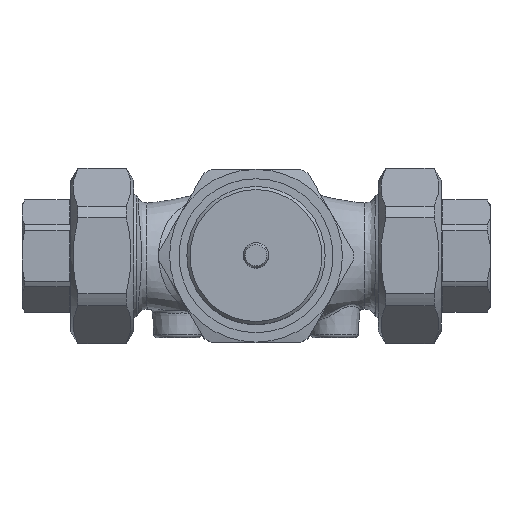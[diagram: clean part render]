
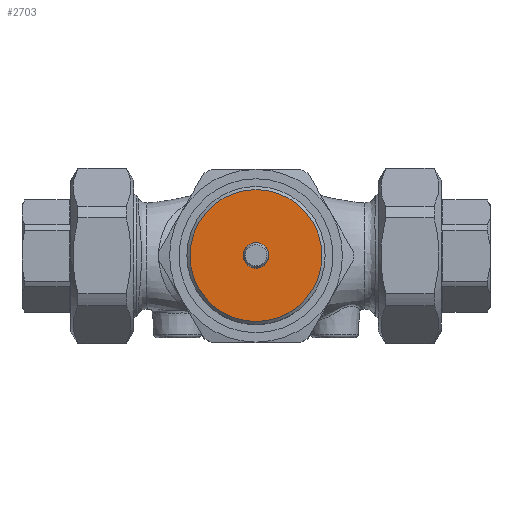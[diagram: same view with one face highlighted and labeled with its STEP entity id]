
A CAD part, top view. The second image highlights one B-rep face of the part: STEP entity #2703.
In plain terms, the highlighted planar face has unit normal (0, 0, 1).
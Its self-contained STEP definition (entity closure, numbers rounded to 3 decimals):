
#1152=PLANE('',#9984);
#1636=CIRCLE('',#9982,4.);
#1637=CIRCLE('',#9983,21.);
#2703=ADVANCED_FACE('',(#3420,#3421),#1152,.F.);
#3420=FACE_BOUND('',#3668,.T.);
#3421=FACE_BOUND('',#3669,.T.);
#3668=EDGE_LOOP('',(#4509));
#3669=EDGE_LOOP('',(#4510));
#4509=ORIENTED_EDGE('',*,*,#8147,.F.);
#4510=ORIENTED_EDGE('',*,*,#8148,.T.);
#7211=VERTEX_POINT('',#19608);
#7212=VERTEX_POINT('',#19610);
#8147=EDGE_CURVE('',#7211,#7211,#1636,.T.);
#8148=EDGE_CURVE('',#7212,#7212,#1637,.T.);
#9982=AXIS2_PLACEMENT_3D('',#19607,#11128,#11129);
#9983=AXIS2_PLACEMENT_3D('',#19609,#11130,#11131);
#9984=AXIS2_PLACEMENT_3D('',#19611,#11132,#11133);
#11128=DIRECTION('',(0.,0.,1.));
#11129=DIRECTION('',(-1.,0.,0.));
#11130=DIRECTION('',(0.,0.,1.));
#11131=DIRECTION('',(-1.,0.,0.));
#11132=DIRECTION('',(0.,0.,-1.));
#11133=DIRECTION('',(-1.,0.,0.));
#19607=CARTESIAN_POINT('',(0.,0.,80.6));
#19608=CARTESIAN_POINT('',(-4.,0.,80.6));
#19609=CARTESIAN_POINT('',(0.,0.,80.6));
#19610=CARTESIAN_POINT('',(-21.,0.,80.6));
#19611=CARTESIAN_POINT('',(0.,-11.25,80.6));
